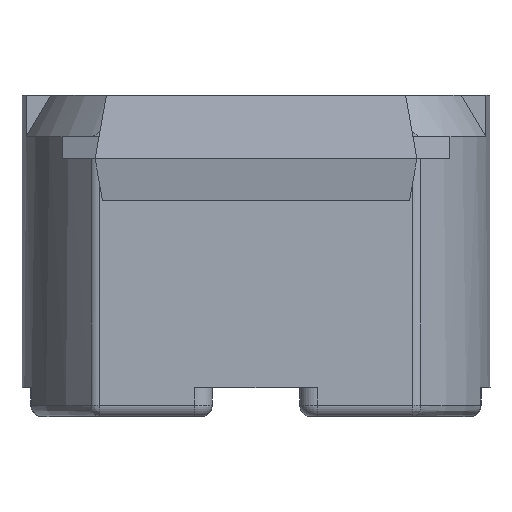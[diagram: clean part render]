
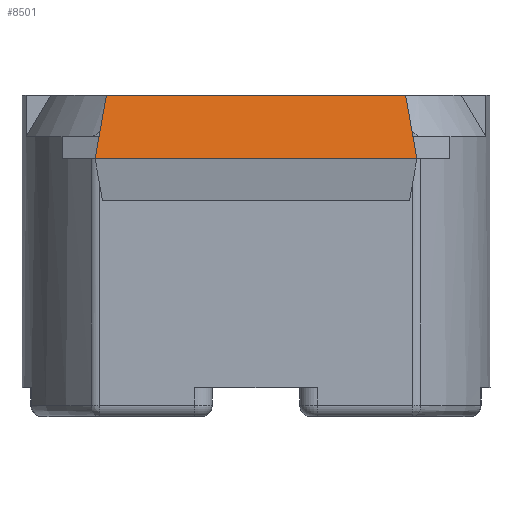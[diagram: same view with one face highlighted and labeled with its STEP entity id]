
A CAD part, front view. The second image highlights one B-rep face of the part: STEP entity #8501.
In plain terms, the highlighted planar face has unit normal (0, -0.985, 0.174).
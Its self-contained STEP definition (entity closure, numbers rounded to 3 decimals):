
#253 = VERTEX_POINT ( 'NONE', #4505 ) ;
#260 = CARTESIAN_POINT ( 'NONE',  ( 237.57, -12.076, -50.759 ) ) ;
#284 = ORIENTED_EDGE ( 'NONE', *, *, #2746, .T. ) ;
#2016 = CARTESIAN_POINT ( 'NONE',  ( 242.877, -12.268, -51.849 ) ) ;
#2093 = ORIENTED_EDGE ( 'NONE', *, *, #4857, .F. ) ;
#2223 = EDGE_CURVE ( 'NONE', #7095, #2904, #8813, .T. ) ;
#2746 = EDGE_CURVE ( 'NONE', #253, #9079, #5493, .T. ) ;
#2904 = VERTEX_POINT ( 'NONE', #6785 ) ;
#3600 = CARTESIAN_POINT ( 'NONE',  ( 237.377, -12.268, -51.849 ) ) ;
#3765 = AXIS2_PLACEMENT_3D ( 'NONE', #8488, #4250, #9210 ) ;
#3823 = CARTESIAN_POINT ( 'NONE',  ( 242.877, -12.076, -50.759 ) ) ;
#4040 = CARTESIAN_POINT ( 'NONE',  ( 242.685, -12.076, -50.759 ) ) ;
#4083 = ORIENTED_EDGE ( 'NONE', *, *, #2223, .F. ) ;
#4250 = DIRECTION ( 'NONE',  ( 0., -0.985, 0.174 ) ) ;
#4505 = CARTESIAN_POINT ( 'NONE',  ( 242.685, -12.076, -50.759 ) ) ;
#4660 = EDGE_CURVE ( 'NONE', #9079, #2904, #6789, .T. ) ;
#4857 = EDGE_CURVE ( 'NONE', #253, #7095, #7327, .T. ) ;
#4979 = EDGE_LOOP ( 'NONE', ( #4083, #2093, #284, #7959 ) ) ;
#5341 = DIRECTION ( 'NONE',  ( -0.171, -0.171, -0.97 ) ) ;
#5493 = LINE ( 'NONE', #3823, #7381 ) ;
#5934 = FACE_OUTER_BOUND ( 'NONE', #4979, .T. ) ;
#6488 = DIRECTION ( 'NONE',  ( -1., 0., 0. ) ) ;
#6785 = CARTESIAN_POINT ( 'NONE',  ( 237.377, -12.268, -51.849 ) ) ;
#6789 = LINE ( 'NONE', #8848, #8392 ) ;
#6905 = DIRECTION ( 'NONE',  ( 0.171, -0.171, -0.97 ) ) ;
#6940 = VECTOR ( 'NONE', #6488, 1000. ) ;
#7057 = PLANE ( 'NONE',  #3765 ) ;
#7093 = VECTOR ( 'NONE', #6905, 1000. ) ;
#7095 = VERTEX_POINT ( 'NONE', #2016 ) ;
#7308 = DIRECTION ( 'NONE',  ( -1., 0., 0. ) ) ;
#7327 = LINE ( 'NONE', #4040, #7093 ) ;
#7381 = VECTOR ( 'NONE', #7308, 1000. ) ;
#7959 = ORIENTED_EDGE ( 'NONE', *, *, #4660, .T. ) ;
#8392 = VECTOR ( 'NONE', #5341, 1000. ) ;
#8488 = CARTESIAN_POINT ( 'NONE',  ( 242.877, -12.268, -51.849 ) ) ;
#8501 = ADVANCED_FACE ( 'NONE', ( #5934 ), #7057, .T. ) ;
#8813 = LINE ( 'NONE', #3600, #6940 ) ;
#8848 = CARTESIAN_POINT ( 'NONE',  ( 237.57, -12.076, -50.759 ) ) ;
#9079 = VERTEX_POINT ( 'NONE', #260 ) ;
#9210 = DIRECTION ( 'NONE',  ( 0., -0.174, -0.985 ) ) ;
